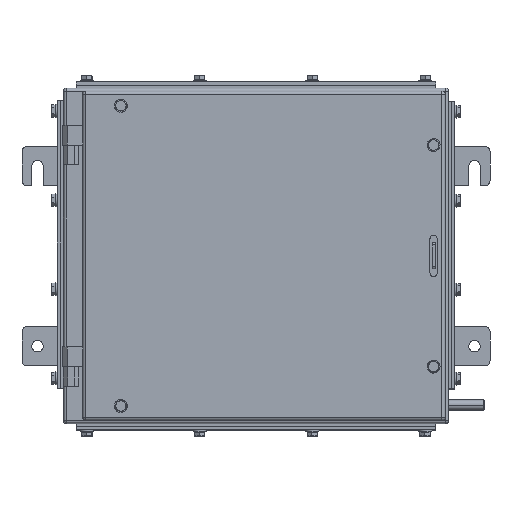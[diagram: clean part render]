
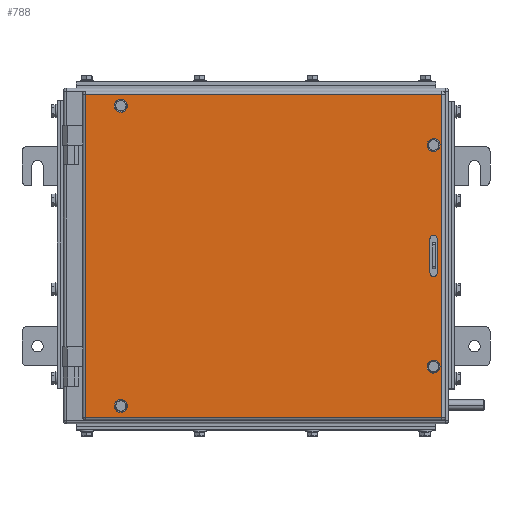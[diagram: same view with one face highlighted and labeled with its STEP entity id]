
A CAD part, top view. The second image highlights one B-rep face of the part: STEP entity #788.
In plain terms, the highlighted planar face has unit normal (0, 0, 1).
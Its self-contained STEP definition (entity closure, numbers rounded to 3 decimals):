
#261 = CARTESIAN_POINT ( 'NONE',  ( 346.5, -107., 18. ) ) ;
#504 = EDGE_LOOP ( 'NONE', ( #14074, #14518, #6058, #4638 ) ) ;
#788 = ADVANCED_FACE ( 'NONE', ( #1350, #10430, #16594, #4957, #8693, #19912 ), #18307, .F. ) ;
#847 = CARTESIAN_POINT ( 'NONE',  ( 51.5, 145., 18. ) ) ;
#1127 = DIRECTION ( 'NONE',  ( -1., 0., 0. ) ) ;
#1339 = VERTEX_POINT ( 'NONE', #23951 ) ;
#1350 = FACE_BOUND ( 'NONE', #504, .T. ) ;
#1374 = AXIS2_PLACEMENT_3D ( 'NONE', #15402, #12060, #2661 ) ;
#1387 = CARTESIAN_POINT ( 'NONE',  ( 48., 145., 18. ) ) ;
#1578 = EDGE_LOOP ( 'NONE', ( #17032, #10263 ) ) ;
#1651 = DIRECTION ( 'NONE',  ( 0., -1., 0. ) ) ;
#1676 = EDGE_CURVE ( 'NONE', #22245, #14717, #13036, .T. ) ;
#1801 = VECTOR ( 'NONE', #5086, 1000. ) ;
#2062 = DIRECTION ( 'NONE',  ( 1., 0., 0. ) ) ;
#2129 = DIRECTION ( 'NONE',  ( 0., 0., 1. ) ) ;
#2241 = LINE ( 'NONE', #2965, #1801 ) ;
#2284 = AXIS2_PLACEMENT_3D ( 'NONE', #21064, #21546, #8465 ) ;
#2412 = VECTOR ( 'NONE', #3318, 1000. ) ;
#2661 = DIRECTION ( 'NONE',  ( 1., 0., 0. ) ) ;
#2893 = CARTESIAN_POINT ( 'NONE',  ( 48., -145., 18. ) ) ;
#2965 = CARTESIAN_POINT ( 'NONE',  ( 353.5, 16.5, 18. ) ) ;
#3085 = CARTESIAN_POINT ( 'NONE',  ( 361., 159., 18. ) ) ;
#3229 = ORIENTED_EDGE ( 'NONE', *, *, #15751, .F. ) ;
#3318 = DIRECTION ( 'NONE',  ( 0., -1., 0. ) ) ;
#3352 = ORIENTED_EDGE ( 'NONE', *, *, #18118, .F. ) ;
#3354 = CARTESIAN_POINT ( 'NONE',  ( 358., 156., 18. ) ) ;
#3663 = CARTESIAN_POINT ( 'NONE',  ( 346.5, 107., 18. ) ) ;
#3677 = EDGE_CURVE ( 'NONE', #7520, #9147, #2241, .T. ) ;
#3854 = DIRECTION ( 'NONE',  ( 0., 0., 1. ) ) ;
#3892 = CARTESIAN_POINT ( 'NONE',  ( 358., 159., 18. ) ) ;
#4638 = ORIENTED_EDGE ( 'NONE', *, *, #14547, .F. ) ;
#4775 = ORIENTED_EDGE ( 'NONE', *, *, #6286, .T. ) ;
#4793 = EDGE_CURVE ( 'NONE', #22684, #5535, #13275, .T. ) ;
#4934 = EDGE_CURVE ( 'NONE', #12721, #24029, #15227, .T. ) ;
#4957 = FACE_BOUND ( 'NONE', #8190, .T. ) ;
#5086 = DIRECTION ( 'NONE',  ( 0., 1., 0. ) ) ;
#5163 = CARTESIAN_POINT ( 'NONE',  ( 353.5, -107., 18. ) ) ;
#5205 = DIRECTION ( 'NONE',  ( -1., 0., 0. ) ) ;
#5283 = VERTEX_POINT ( 'NONE', #22019 ) ;
#5535 = VERTEX_POINT ( 'NONE', #847 ) ;
#5626 = DIRECTION ( 'NONE',  ( 1., 0., 0. ) ) ;
#5717 = CARTESIAN_POINT ( 'NONE',  ( 48., 145., 18. ) ) ;
#6058 = ORIENTED_EDGE ( 'NONE', *, *, #3677, .F. ) ;
#6217 = DIRECTION ( 'NONE',  ( 0., 0., 1. ) ) ;
#6286 = EDGE_CURVE ( 'NONE', #24029, #22245, #24066, .T. ) ;
#6339 = DIRECTION ( 'NONE',  ( 1., 0., 0. ) ) ;
#6443 = EDGE_CURVE ( 'NONE', #11140, #18414, #14759, .T. ) ;
#7389 = DIRECTION ( 'NONE',  ( 0., 0., 1. ) ) ;
#7419 = CARTESIAN_POINT ( 'NONE',  ( 350., 107., 18. ) ) ;
#7463 = CARTESIAN_POINT ( 'NONE',  ( 44.5, -145., 18. ) ) ;
#7520 = VERTEX_POINT ( 'NONE', #19321 ) ;
#7926 = EDGE_CURVE ( 'NONE', #9147, #10927, #12935, .T. ) ;
#7973 = CIRCLE ( 'NONE', #21771, 3.5 ) ;
#8190 = EDGE_LOOP ( 'NONE', ( #21854, #9330 ) ) ;
#8465 = DIRECTION ( 'NONE',  ( 1., 0., 0. ) ) ;
#8567 = DIRECTION ( 'NONE',  ( 0., 0., -1. ) ) ;
#8693 = FACE_BOUND ( 'NONE', #11132, .T. ) ;
#8708 = LINE ( 'NONE', #14225, #20997 ) ;
#9147 = VERTEX_POINT ( 'NONE', #23390 ) ;
#9310 = DIRECTION ( 'NONE',  ( 1., 0., 0. ) ) ;
#9330 = ORIENTED_EDGE ( 'NONE', *, *, #6443, .F. ) ;
#9340 = CIRCLE ( 'NONE', #19572, 3.5 ) ;
#9472 = DIRECTION ( 'NONE',  ( 0., 1., 0. ) ) ;
#9808 = EDGE_CURVE ( 'NONE', #10927, #1339, #24345, .T. ) ;
#10164 = AXIS2_PLACEMENT_3D ( 'NONE', #2893, #12295, #14371 ) ;
#10263 = ORIENTED_EDGE ( 'NONE', *, *, #12912, .F. ) ;
#10430 = FACE_BOUND ( 'NONE', #14505, .T. ) ;
#10471 = EDGE_CURVE ( 'NONE', #14717, #12721, #8708, .T. ) ;
#10835 = VECTOR ( 'NONE', #10967, 1000. ) ;
#10927 = VERTEX_POINT ( 'NONE', #23806 ) ;
#10967 = DIRECTION ( 'NONE',  ( 1., 0., 0. ) ) ;
#10989 = CARTESIAN_POINT ( 'NONE',  ( 44.5, 145., 18. ) ) ;
#11132 = EDGE_LOOP ( 'NONE', ( #3352, #13834 ) ) ;
#11140 = VERTEX_POINT ( 'NONE', #3663 ) ;
#11168 = EDGE_CURVE ( 'NONE', #19770, #5283, #21448, .T. ) ;
#11397 = CIRCLE ( 'NONE', #2284, 3.5 ) ;
#12060 = DIRECTION ( 'NONE',  ( 0., 0., 1. ) ) ;
#12295 = DIRECTION ( 'NONE',  ( 0., 0., 1. ) ) ;
#12304 = VECTOR ( 'NONE', #9472, 1000. ) ;
#12721 = VERTEX_POINT ( 'NONE', #16507 ) ;
#12904 = CIRCLE ( 'NONE', #10164, 3.5 ) ;
#12912 = EDGE_CURVE ( 'NONE', #18115, #17416, #7973, .T. ) ;
#12935 = CIRCLE ( 'NONE', #19644, 3.5 ) ;
#13036 = LINE ( 'NONE', #3892, #12304 ) ;
#13051 = DIRECTION ( 'NONE',  ( 1., 0., 0. ) ) ;
#13196 = DIRECTION ( 'NONE',  ( 0., 0., 1. ) ) ;
#13234 = CARTESIAN_POINT ( 'NONE',  ( 350., 107., 18. ) ) ;
#13275 = CIRCLE ( 'NONE', #22744, 3.5 ) ;
#13368 = VECTOR ( 'NONE', #1651, 1000. ) ;
#13834 = ORIENTED_EDGE ( 'NONE', *, *, #4793, .F. ) ;
#14074 = ORIENTED_EDGE ( 'NONE', *, *, #9808, .F. ) ;
#14205 = EDGE_LOOP ( 'NONE', ( #4775, #15056, #14857, #22331 ) ) ;
#14225 = CARTESIAN_POINT ( 'NONE',  ( 361., 156., 18. ) ) ;
#14371 = DIRECTION ( 'NONE',  ( 1., 0., 0. ) ) ;
#14505 = EDGE_LOOP ( 'NONE', ( #3229, #16710 ) ) ;
#14518 = ORIENTED_EDGE ( 'NONE', *, *, #7926, .F. ) ;
#14547 = EDGE_CURVE ( 'NONE', #1339, #7520, #11397, .T. ) ;
#14659 = CARTESIAN_POINT ( 'NONE',  ( 361., -156., 18. ) ) ;
#14717 = VERTEX_POINT ( 'NONE', #3354 ) ;
#14759 = CIRCLE ( 'NONE', #17925, 3.5 ) ;
#14857 = ORIENTED_EDGE ( 'NONE', *, *, #10471, .T. ) ;
#15056 = ORIENTED_EDGE ( 'NONE', *, *, #1676, .T. ) ;
#15227 = LINE ( 'NONE', #22540, #13368 ) ;
#15402 = CARTESIAN_POINT ( 'NONE',  ( 350., -107., 18. ) ) ;
#15460 = DIRECTION ( 'NONE',  ( 1., 0., 0. ) ) ;
#15751 = EDGE_CURVE ( 'NONE', #5283, #19770, #12904, .T. ) ;
#16507 = CARTESIAN_POINT ( 'NONE',  ( 14., 156., 18. ) ) ;
#16594 = FACE_BOUND ( 'NONE', #1578, .T. ) ;
#16710 = ORIENTED_EDGE ( 'NONE', *, *, #11168, .F. ) ;
#17032 = ORIENTED_EDGE ( 'NONE', *, *, #17745, .F. ) ;
#17138 = CARTESIAN_POINT ( 'NONE',  ( 48., -145., 18. ) ) ;
#17416 = VERTEX_POINT ( 'NONE', #5163 ) ;
#17745 = EDGE_CURVE ( 'NONE', #17416, #18115, #23880, .T. ) ;
#17925 = AXIS2_PLACEMENT_3D ( 'NONE', #7419, #13196, #2062 ) ;
#18096 = DIRECTION ( 'NONE',  ( 1., 0., 0. ) ) ;
#18115 = VERTEX_POINT ( 'NONE', #261 ) ;
#18118 = EDGE_CURVE ( 'NONE', #5535, #22684, #19181, .T. ) ;
#18307 = PLANE ( 'NONE',  #20240 ) ;
#18382 = AXIS2_PLACEMENT_3D ( 'NONE', #5717, #20802, #15460 ) ;
#18414 = VERTEX_POINT ( 'NONE', #24353 ) ;
#19181 = CIRCLE ( 'NONE', #18382, 3.5 ) ;
#19321 = CARTESIAN_POINT ( 'NONE',  ( 353.5, -16.5, 18. ) ) ;
#19572 = AXIS2_PLACEMENT_3D ( 'NONE', #13234, #3854, #9310 ) ;
#19644 = AXIS2_PLACEMENT_3D ( 'NONE', #23126, #6217, #6339 ) ;
#19770 = VERTEX_POINT ( 'NONE', #7463 ) ;
#19869 = EDGE_CURVE ( 'NONE', #18414, #11140, #9340, .T. ) ;
#19912 = FACE_OUTER_BOUND ( 'NONE', #14205, .T. ) ;
#19948 = DIRECTION ( 'NONE',  ( 0., 0., 1. ) ) ;
#20240 = AXIS2_PLACEMENT_3D ( 'NONE', #3085, #8567, #5205 ) ;
#20276 = AXIS2_PLACEMENT_3D ( 'NONE', #17138, #7389, #13051 ) ;
#20534 = CARTESIAN_POINT ( 'NONE',  ( 358., -156., 18. ) ) ;
#20802 = DIRECTION ( 'NONE',  ( 0., 0., 1. ) ) ;
#20997 = VECTOR ( 'NONE', #1127, 1000. ) ;
#21064 = CARTESIAN_POINT ( 'NONE',  ( 350., -16.5, 18. ) ) ;
#21448 = CIRCLE ( 'NONE', #20276, 3.5 ) ;
#21546 = DIRECTION ( 'NONE',  ( 0., 0., 1. ) ) ;
#21654 = CARTESIAN_POINT ( 'NONE',  ( 14., -156., 18. ) ) ;
#21771 = AXIS2_PLACEMENT_3D ( 'NONE', #22546, #2129, #5626 ) ;
#21854 = ORIENTED_EDGE ( 'NONE', *, *, #19869, .F. ) ;
#22019 = CARTESIAN_POINT ( 'NONE',  ( 51.5, -145., 18. ) ) ;
#22241 = CARTESIAN_POINT ( 'NONE',  ( 346.5, 16.5, 18. ) ) ;
#22245 = VERTEX_POINT ( 'NONE', #20534 ) ;
#22331 = ORIENTED_EDGE ( 'NONE', *, *, #4934, .T. ) ;
#22540 = CARTESIAN_POINT ( 'NONE',  ( 14., 159., 18. ) ) ;
#22546 = CARTESIAN_POINT ( 'NONE',  ( 350., -107., 18. ) ) ;
#22684 = VERTEX_POINT ( 'NONE', #10989 ) ;
#22744 = AXIS2_PLACEMENT_3D ( 'NONE', #1387, #19948, #18096 ) ;
#23126 = CARTESIAN_POINT ( 'NONE',  ( 350., 16.5, 18. ) ) ;
#23390 = CARTESIAN_POINT ( 'NONE',  ( 353.5, 16.5, 18. ) ) ;
#23806 = CARTESIAN_POINT ( 'NONE',  ( 346.5, 16.5, 18. ) ) ;
#23880 = CIRCLE ( 'NONE', #1374, 3.5 ) ;
#23951 = CARTESIAN_POINT ( 'NONE',  ( 346.5, -16.5, 18. ) ) ;
#24029 = VERTEX_POINT ( 'NONE', #21654 ) ;
#24066 = LINE ( 'NONE', #14659, #10835 ) ;
#24345 = LINE ( 'NONE', #22241, #2412 ) ;
#24353 = CARTESIAN_POINT ( 'NONE',  ( 353.5, 107., 18. ) ) ;
